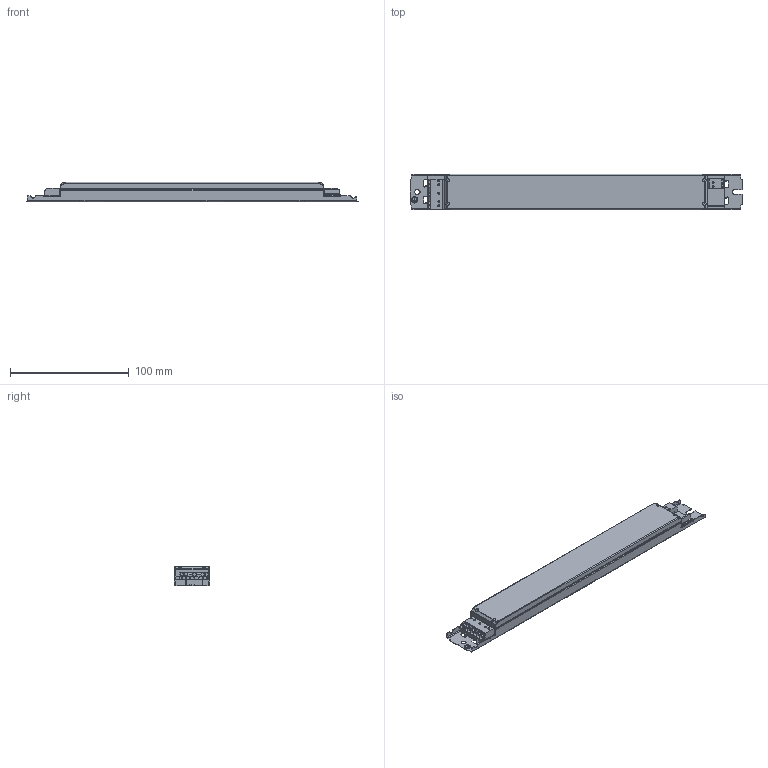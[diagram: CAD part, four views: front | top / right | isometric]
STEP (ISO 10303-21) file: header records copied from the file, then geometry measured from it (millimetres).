
FILE_DESCRIPTION((''),'2;1');
FILE_NAME('15014564Z_DMEC_280X30X16-3','2021-11-26T10:27:37',('Emanuel.Wild'),(''),'CREO PARAMETRIC BY PTC INC, 2021184','CREO PARAMETRIC BY PTC INC, 2021184','');
FILE_SCHEMA(('CONFIG_CONTROL_DESIGN'));
Length unit declared in the file: millimetre
Products named in the file (1): 15014564Z_DMEC_280X30X16-3
Bounding box: 280 x 30 x 16.3 mm (x, y, z)
Volume: 114389.8 mm3; surface area: 27738.7 mm2
Topology: 1 solids, 1 shells, 905 faces, 2429 edges, 1521 vertices
Faces by surface type: plane 507, cylinder 342, cone 34, bspline 22
Entity records: 28802 total; most frequent: CARTESIAN_POINT 6076, ORIENTED_EDGE 4826, DIRECTION 4689, EDGE_CURVE 2413, VECTOR 1599, LINE 1599, AXIS2_PLACEMENT_3D 1545, VERTEX_POINT 1521
